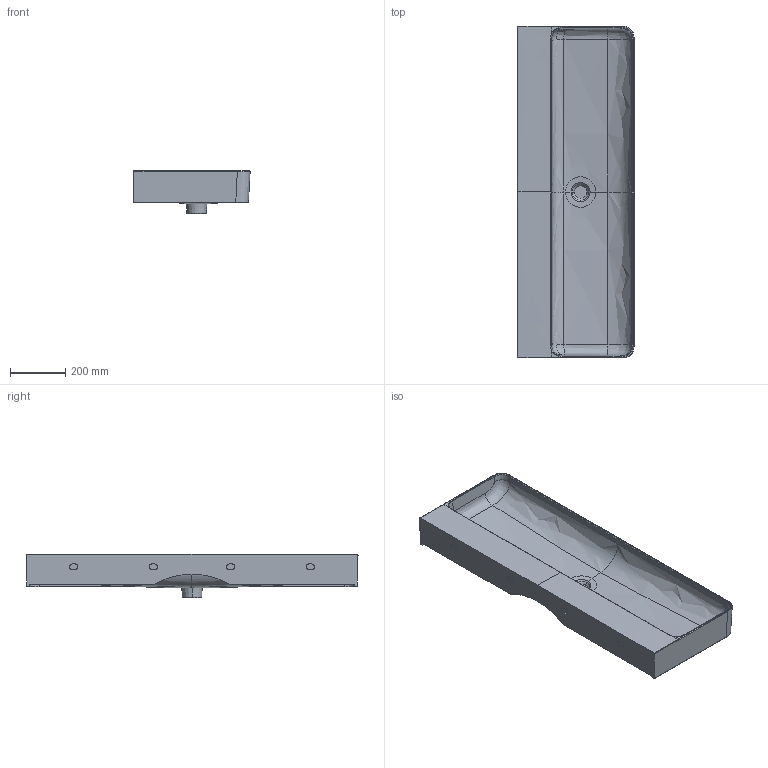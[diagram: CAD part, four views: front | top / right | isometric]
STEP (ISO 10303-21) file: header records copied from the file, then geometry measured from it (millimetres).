
FILE_DESCRIPTION(('CATIA V5 STEP'),'2;1');
FILE_NAME('G:\Laufen Similor\TPM-K\TPE\JStöckli\BIM\VAL\10289\HY10289BIM.stp','2017-01-20T13:42:45+00:00',('none'),('none'),'CATIA Version 5 Release 19 SP 9 (IN-10)','CATIA V5 STEP AP203','none');
FILE_SCHEMA(('CONFIG_CONTROL_DESIGN'));
Length unit declared in the file: millimetre
Products named in the file (1): HY10289BIM
Bounding box: 419.95 x 1199.91 x 156.98 mm (x, y, z)
Volume: 15549116.6 mm3; surface area: 1762679.4 mm2
Topology: 1 solids, 1 shells, 148 faces, 384 edges, 248 vertices
Faces by surface type: bspline 66, plane 51, extrusion 17, cylinder 6, cone 4, torus 4
Entity records: 14743 total; most frequent: CARTESIAN_POINT 11860, ORIENTED_EDGE 748, EDGE_CURVE 374, DIRECTION 272, VERTEX_POINT 233, B_SPLINE_CURVE_WITH_KNOTS 229, EDGE_LOOP 153, ADVANCED_FACE 148
